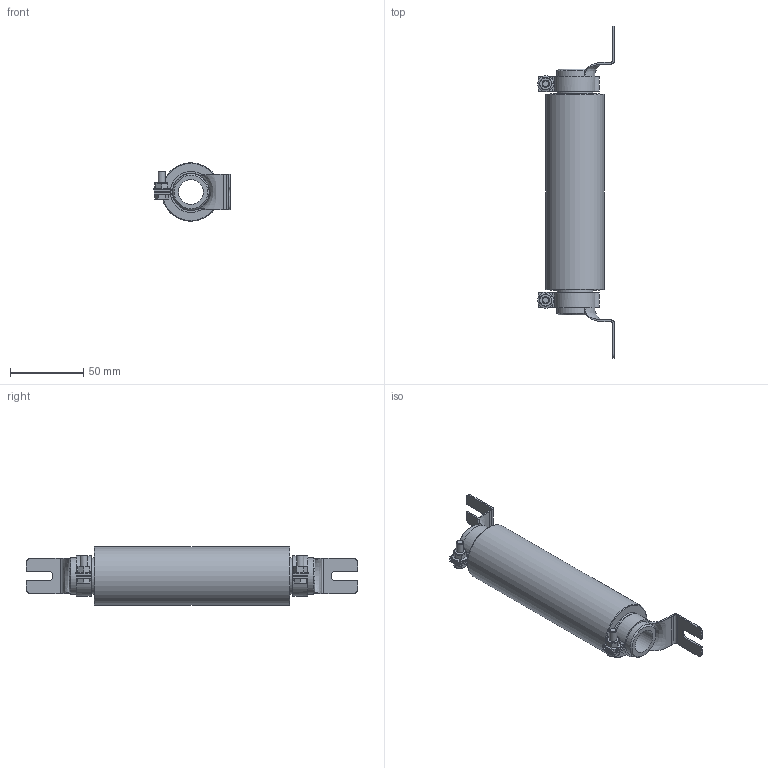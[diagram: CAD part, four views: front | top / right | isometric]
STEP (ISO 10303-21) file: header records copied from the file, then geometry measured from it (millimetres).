
FILE_DESCRIPTION(/* description */ (' '),/* implementation_level */ '2;1');
FILE_NAME(/* name */ 'C38TF',/* time_stamp */ '2018-01-10T11:27:11+01:00',/* author */ ('VISHAY MCB INDUSTRIE'),/* organization */ (' '),/* preprocessor_version */ 'ST-DEVELOPER v16.7',/* originating_system */ 'DEX',/* authorisation */ $);
FILE_SCHEMA (('AUTOMOTIVE_DESIGN {1 0 10303 214 3 1 1}'));
Length unit declared in the file: millimetre
Products named in the file (7): P500-4394; 745551; 278994; 067 émail; Vis HM 5x16 (CE); Rondelle plate M5 ep2 nickelé; Ecrou HM5 embase
Assembly tree (10 placements, depth 2):
  P500-4394
    745551
    278994  x2
    067 émail
    Vis HM 5x16 (CE)  x2
    Rondelle plate M5 ep2 nickelé  x2
    Ecrou HM5 embase  x2
Bounding box: 52.5 x 227 x 40 mm (x, y, z)
Volume: 152734.6 mm3; surface area: 75578.7 mm2
Topology: 10 solids, 10 shells, 208 faces, 498 edges, 316 vertices
Faces by surface type: plane 102, cylinder 52, cone 32, bspline 16, torus 6
Full cylindrical faces by diameter (mm): 4 x2, 4.2 x2, 5 x2, 5.2 x2, 5.3 x2, 6.8 x2, 7.2 x2, 10 x2, 11 x2, 17 x1, 25 x2, 28 x2, 38 x2, 40 x1
Entity records: 4060 total; most frequent: CARTESIAN_POINT 1106, DIRECTION 510, ORIENTED_EDGE 478, EDGE_CURVE 239, AXIS2_PLACEMENT_3D 211, VERTEX_POINT 165, EDGE_LOOP 162, FACE_BOUND 162
